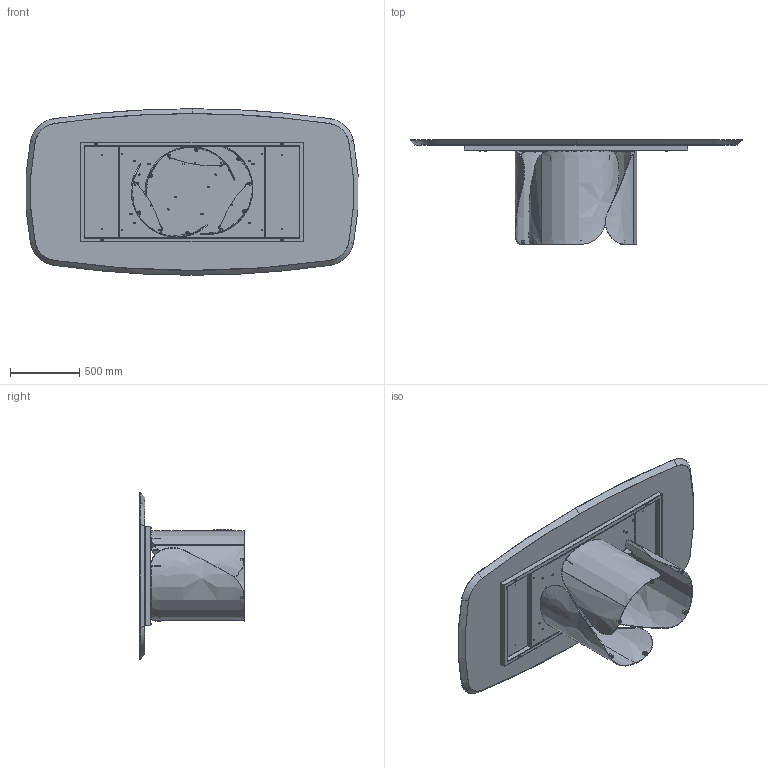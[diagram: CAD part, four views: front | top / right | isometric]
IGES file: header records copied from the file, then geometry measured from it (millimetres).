
Start section: SolidWorks IGES file using analytic representation for surfaces
Global section: file name: Y:\eforma\TECNICO\SOLIDWORKS\E-FORMA\1-TAVOLI\ONDA\02 parts\ON43W.IGS; native system: SolidWorks 2022; preprocessor: SolidWorks 2022; author: eforma.tech; date: 240806.155550; units: millimetre
Bounding box: 2391.9 x 754 x 1200 mm (x, y, z)
Volume: 109847944.1 mm3; surface area: 11716818.6 mm2
Topology: 59 solids, 59 shells, 1746 faces, 3979 edges, 2362 vertices
Faces by surface type: revolution 1068, plane 618, bspline 60
